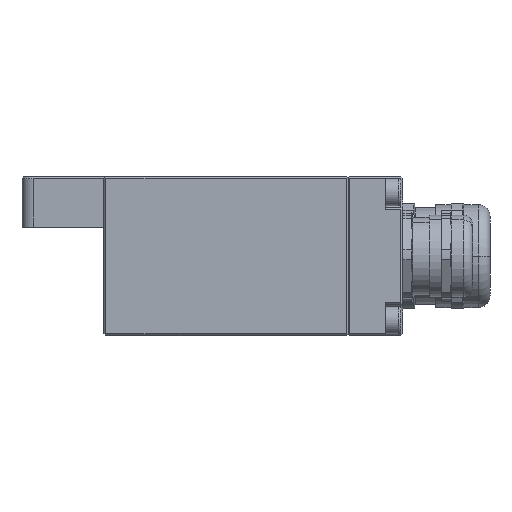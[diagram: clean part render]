
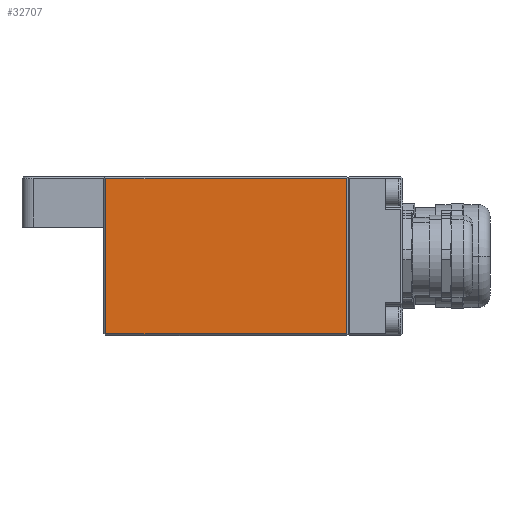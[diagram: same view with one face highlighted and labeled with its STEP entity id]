
A CAD part, left-side view. The second image highlights one B-rep face of the part: STEP entity #32707.
In plain terms, the highlighted planar face has unit normal (-1, 0, 0).
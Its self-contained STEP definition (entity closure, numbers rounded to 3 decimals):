
#61 = CARTESIAN_POINT ( 'NONE',  ( -127.466, -20.575, -20. ) ) ;
#526 = CARTESIAN_POINT ( 'NONE',  ( -127.466, 41.925, -20. ) ) ;
#1654 = EDGE_LOOP ( 'NONE', ( #27206, #22582, #5222, #8329 ) ) ;
#2052 = DIRECTION ( 'NONE',  ( 0., 0., 1. ) ) ;
#2160 = CARTESIAN_POINT ( 'NONE',  ( -127.466, 41.925, 20. ) ) ;
#2521 = VERTEX_POINT ( 'NONE', #27071 ) ;
#3152 = VECTOR ( 'NONE', #33765, 1000. ) ;
#4095 = CARTESIAN_POINT ( 'NONE',  ( -127.466, -20.075, 20. ) ) ;
#5222 = ORIENTED_EDGE ( 'NONE', *, *, #27857, .T. ) ;
#7828 = PLANE ( 'NONE',  #26038 ) ;
#8020 = DIRECTION ( 'NONE',  ( 0., 1., 0. ) ) ;
#8308 = DIRECTION ( 'NONE',  ( 0., 0., -1. ) ) ;
#8329 = ORIENTED_EDGE ( 'NONE', *, *, #21111, .T. ) ;
#10415 = DIRECTION ( 'NONE',  ( -1., 0., 0. ) ) ;
#10472 = CARTESIAN_POINT ( 'NONE',  ( -127.466, 42.425, 20. ) ) ;
#10997 = CARTESIAN_POINT ( 'NONE',  ( -127.466, 41.925, -20.5 ) ) ;
#12924 = LINE ( 'NONE', #61, #34017 ) ;
#15454 = CARTESIAN_POINT ( 'NONE',  ( -127.466, -20.575, -20.5 ) ) ;
#16020 = EDGE_CURVE ( 'NONE', #32246, #2521, #12924, .T. ) ;
#18446 = VECTOR ( 'NONE', #8020, 1000. ) ;
#20181 = VERTEX_POINT ( 'NONE', #2160 ) ;
#21111 = EDGE_CURVE ( 'NONE', #23115, #20181, #31942, .T. ) ;
#22582 = ORIENTED_EDGE ( 'NONE', *, *, #16020, .T. ) ;
#23115 = VERTEX_POINT ( 'NONE', #4095 ) ;
#23649 = EDGE_CURVE ( 'NONE', #20181, #32246, #29153, .T. ) ;
#26038 = AXIS2_PLACEMENT_3D ( 'NONE', #15454, #10415, #2052 ) ;
#26300 = LINE ( 'NONE', #33410, #3152 ) ;
#27023 = DIRECTION ( 'NONE',  ( 0., -1., 0. ) ) ;
#27071 = CARTESIAN_POINT ( 'NONE',  ( -127.466, -20.075, -20. ) ) ;
#27206 = ORIENTED_EDGE ( 'NONE', *, *, #23649, .T. ) ;
#27857 = EDGE_CURVE ( 'NONE', #2521, #23115, #26300, .T. ) ;
#29153 = LINE ( 'NONE', #10997, #32089 ) ;
#31942 = LINE ( 'NONE', #10472, #18446 ) ;
#32089 = VECTOR ( 'NONE', #8308, 1000. ) ;
#32246 = VERTEX_POINT ( 'NONE', #526 ) ;
#32707 = ADVANCED_FACE ( 'NONE', ( #34565 ), #7828, .T. ) ;
#33410 = CARTESIAN_POINT ( 'NONE',  ( -127.466, -20.075, -20.5 ) ) ;
#33765 = DIRECTION ( 'NONE',  ( 0., 0., 1. ) ) ;
#34017 = VECTOR ( 'NONE', #27023, 1000. ) ;
#34565 = FACE_OUTER_BOUND ( 'NONE', #1654, .T. ) ;
